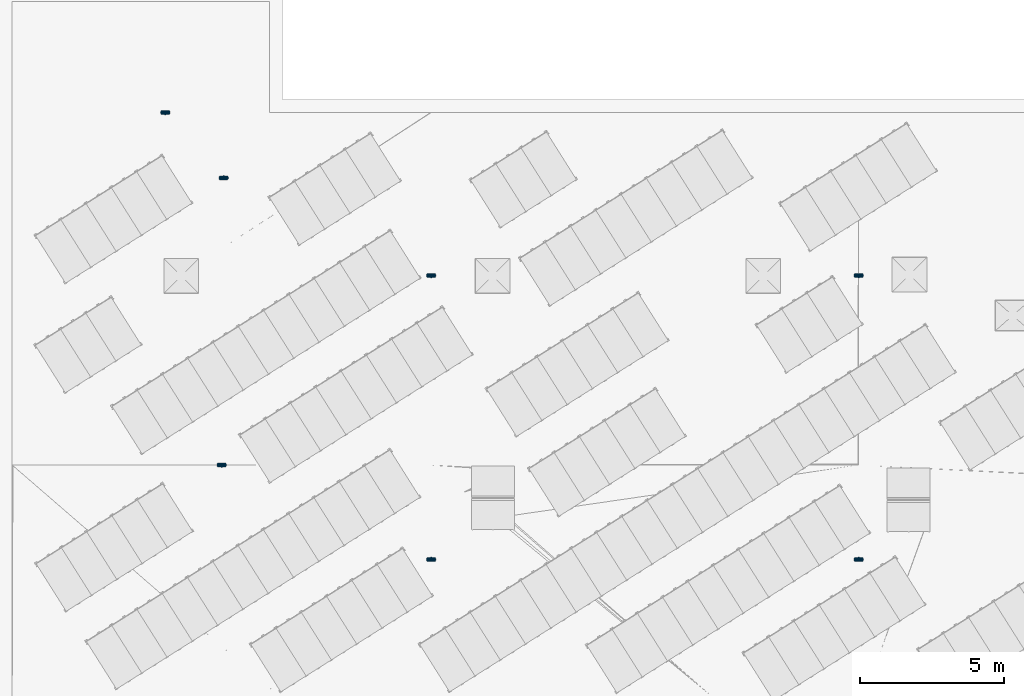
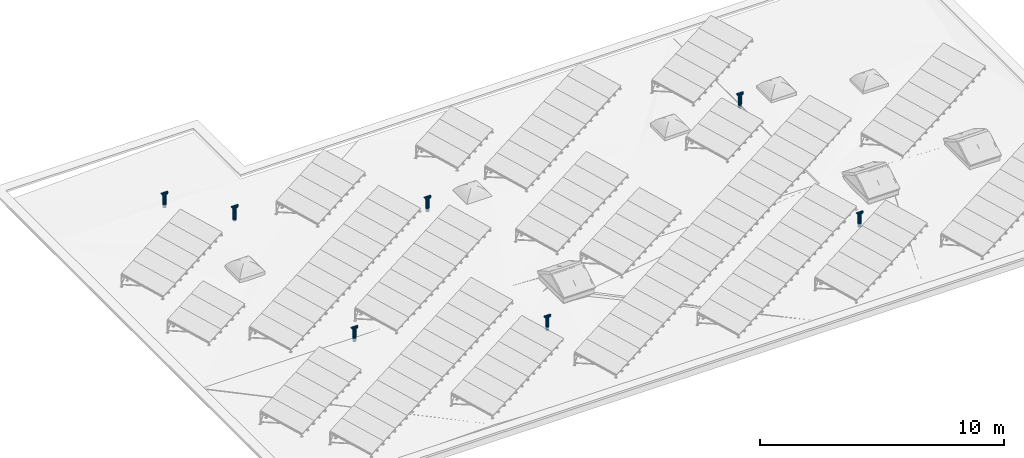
# One storey, part 4 of 9: 7 discrete accessories.
"""IFC2X3 building model written with IfcOpenShell, lengths in millimetres."""

from ifc_helpers import new_model, entity, si_unit, converted_unit, derived_unit, money_unit, direction, frame, origin_with_axes, place, context, subcontext, project, spatial, open_shell, surface_model, source, transform, mapped, material, type_object, element, save


model = new_model("IFC2X3")

# Units and contexts
model_context = context("Model", 3, precision=0.01, world=origin_with_axes(), true_north=direction((0.0, 1.0)))
body_context = subcontext(model_context, "Body", "Model", "MODEL_VIEW")
ifc_project = project(units=[si_unit("LENGTHUNIT", "METRE", prefix="MILLI"), si_unit("AREAUNIT", "SQUARE_METRE"), si_unit("VOLUMEUNIT", "CUBIC_METRE"), converted_unit("PLANEANGLEUNIT", "DEGREE", entity("IfcPlaneAngleMeasure", 0.0174532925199), si_unit("PLANEANGLEUNIT", "RADIAN"), dimensions=[0, 0, 0, 0, 0, 0, 0]), si_unit("SOLIDANGLEUNIT", "STERADIAN"), money_unit("EUR"), converted_unit("TIMEUNIT", "Year", entity("IfcTimeMeasure", 31556926.0), si_unit("TIMEUNIT", "SECOND"), dimensions=[0, 0, 1, 0, 0, 0, 0]), si_unit("MASSUNIT", "GRAM", prefix="KILO"), si_unit("THERMODYNAMICTEMPERATUREUNIT", "DEGREE_CELSIUS"), si_unit("LUMINOUSINTENSITYUNIT", "LUMEN"), si_unit("ENERGYUNIT", "JOULE", prefix="MEGA"), derived_unit("THERMALCONDUCTANCEUNIT", [(si_unit("POWERUNIT", "WATT"), 1), (si_unit("LENGTHUNIT", "METRE"), -1), (si_unit("THERMODYNAMICTEMPERATUREUNIT", "KELVIN"), -1)]), derived_unit("SPECIFICHEATCAPACITYUNIT", [(si_unit("ENERGYUNIT", "JOULE"), 1), (si_unit("MASSUNIT", "GRAM", prefix="KILO"), -1), (si_unit("THERMODYNAMICTEMPERATUREUNIT", "KELVIN"), -1)]), derived_unit("MASSDENSITYUNIT", [(si_unit("MASSUNIT", "GRAM", prefix="KILO"), 1), (si_unit("VOLUMEUNIT", "CUBIC_METRE"), -1)])], contexts=[model_context])

# Site, building, storey
site_placement = place(None, origin_with_axes())
site = spatial("IfcSite", under=ifc_project, at=site_placement, Name="KIRDE 14, ELVA", CompositionType="ELEMENT")
building_placement = place(site_placement, origin_with_axes())
building = spatial("IfcBuilding", under=site, at=building_placement, Name="PPA ja Päästeameti ühishoone", CompositionType="ELEMENT")
storey_placement = place(building_placement, frame((0.0, 0.0, 7700.0), z_axis=(0.0, 0.0, 1.0), x_axis=(1.0, 0.0, 0.0)))
storey = spatial("IfcBuildingStorey", under=building, at=storey_placement, Name="Katusekorrus", CompositionType="ELEMENT", Elevation=7700.0)

# Discrete accessories
ifc_material = material(Name="IFC Building Material")
discrete_accessory_type = type_object("IfcDiscreteAccessoryType", Name="Model Element 36")
shared_shape = source(origin_with_axes(), body_context, "Body", "SurfaceModel", [
    surface_model("IfcShellBasedSurfaceModel", [(38.72983, -70.0, 670.0), (13.41264, -78.86762, 670.0), (0.0, -70.0, 670.0), (-13.41264, -78.86762, 670.0), (-38.72983, -70.0, 670.0)], [open_shell([[[0, 1, 2]], [[1, 3, 2]], [[3, 4, 2]]])]),
    surface_model("IfcShellBasedSurfaceModel", [(-38.72983, 70.0, 670.0), (-13.41264, 78.86762, 670.0), (0.0, 70.0, 670.0), (13.41264, 78.86762, 670.0), (38.72983, 70.0, 670.0)], [open_shell([[[0, 1, 2]], [[1, 3, 2]], [[3, 4, 2]]])]),
    surface_model("IfcShellBasedSurfaceModel", [(-80.0, 0.0, 740.0), (-80.0, -26.78784, 734.67157), (80.0, -26.78784, 734.67157), (80.0, 0.0, 740.0), (-80.0, -49.49747, 719.49747), (80.0, -49.49747, 719.49747), (162.14548, -26.78784, 734.67157), (165.0, 0.0, 740.0), (-80.0, 26.78784, 734.67157), (80.0, 26.78784, 734.67157), (-80.0, -64.67157, 696.78784), (80.0, -64.67157, 696.78784), (154.0165, -49.49747, 719.49747), (162.14548, 26.78784, 734.67157), (-80.0, 49.49747, 719.49747), (80.0, 49.49747, 719.49747), (-154.0165, -49.49747, 719.49747), (-141.85063, -64.67157, 696.78784), (-80.0, -70.0, 670.0), (80.0, -70.0, 670.0), (141.85063, -64.67157, 696.78784), (154.0165, 49.49747, 719.49747), (-80.0, 64.67157, 696.78784), (80.0, 64.67157, 696.78784), (-80.0, -26.78784, 734.67157), (-162.14548, -26.78784, 734.67157), (-127.5, -70.0, 670.0), (-80.0, -64.67157, 643.21216), (80.0, -64.67157, 643.21216), (127.5, -70.0, 670.0), (141.85063, 64.67157, 696.78784), (-141.85063, 64.67157, 696.78784), (-154.0165, 49.49747, 719.49747), (-80.0, 70.0, 670.0), (80.0, 70.0, 670.0), (-165.0, 0.0, 740.0), (-113.14937, -64.67157, 643.21216), (-80.0, -49.49747, 620.50253), (80.0, -49.49747, 620.50253), (113.14937, -64.67157, 643.21216), (127.5, 70.0, 670.0), (-127.5, 70.0, 670.0), (-80.0, 26.78784, 734.67157), (-162.14548, 26.78784, 734.67157), (-80.0, 64.67157, 643.21216), (80.0, 64.67157, 643.21216), (-100.9835, -49.49747, 620.50253), (-80.0, -26.78784, 605.32843), (80.0, -26.78784, 605.32843), (100.9835, -49.49747, 620.50253), (113.14937, 64.67157, 643.21216), (-113.14937, 64.67157, 643.21216), (-80.0, 49.49747, 620.50253), (80.0, 49.49747, 620.50253), (-80.0, -26.78784, 605.32843), (-92.85452, -26.78784, 605.32843), (-80.0, 0.0, 600.0), (80.0, 0.0, 600.0), (92.85452, -26.78784, 605.32843), (100.9835, 49.49747, 620.50253), (-100.9835, 49.49747, 620.50253), (-80.0, 26.78784, 605.32843), (80.0, 26.78784, 605.32843), (-90.0, 0.0, 600.0), (90.0, 0.0, 600.0), (92.85452, 26.78784, 605.32843), (-80.0, 26.78784, 605.32843), (-92.85452, 26.78784, 605.32843)], [open_shell([[[0, 1, 2, 3]], [[1, 4, 5, 2]], [[3, 2, 6, 7]], [[8, 0, 3, 9]], [[4, 10, 11, 5]], [[2, 5, 12, 6]], [[9, 3, 7, 13]], [[14, 8, 9, 15]], [[10, 4, 16, 17]], [[10, 18, 19, 11]], [[5, 11, 20, 12]], [[15, 9, 13, 21]], [[22, 14, 15, 23]], [[4, 24, 25, 16]], [[18, 10, 17, 26]], [[18, 27, 28, 19]], [[11, 19, 29, 20]], [[23, 15, 21, 30]], [[14, 22, 31, 32]], [[33, 22, 23, 34]], [[24, 0, 35, 25]], [[27, 18, 26, 36]], [[27, 37, 38, 28]], [[19, 28, 39, 29]], [[34, 23, 30, 40]], [[22, 33, 41, 31]], [[42, 14, 32, 43]], [[44, 33, 34, 45]], [[0, 42, 43, 35]], [[37, 27, 36, 46]], [[37, 47, 48, 38]], [[28, 38, 49, 39]], [[45, 34, 40, 50]], [[33, 44, 51, 41]], [[52, 44, 45, 53]], [[54, 37, 46, 55]], [[47, 56, 57, 48]], [[38, 48, 58, 49]], [[53, 45, 50, 59]], [[44, 52, 60, 51]], [[61, 52, 53, 62]], [[56, 54, 55, 63]], [[56, 61, 62, 57]], [[48, 57, 64, 58]], [[62, 53, 59, 65]], [[52, 66, 67, 60]], [[66, 56, 63, 67]], [[57, 62, 65, 64]]])]),
    surface_model("IfcShellBasedSurfaceModel", [(80.0, 0.0, 0.0), (73.91036, 30.61467, 0.0), (73.91036, 30.61467, 590.0), (80.0, 0.0, 590.0), (56.56854, 56.56854, 0.0), (56.56854, 56.56854, 590.0), (73.91036, 30.61467, 607.04969), (80.0, 0.0, 600.0), (73.91036, -30.61467, 0.0), (73.91036, -30.61467, 590.0), (30.61467, 73.91036, 0.0), (30.61467, 73.91036, 590.0), (73.91036, -30.61467, 607.04969), (56.56854, 56.56854, 628.76894), (56.56854, 56.56854, 590.0), (56.56854, -56.56854, 0.0), (56.56854, -56.56854, 590.0), (0.0, 80.0, 0.0), (0.0, 80.0, 590.0), (56.56854, -56.56854, 628.76894), (56.56854, -56.56854, 590.0), (30.61467, 73.91036, 670.0), (30.61467, 73.91036, 590.0), (30.61467, -73.91036, 0.0), (30.61467, -73.91036, 590.0), (-30.61467, 73.91036, 0.0), (-30.61467, 73.91036, 590.0), (30.61467, -73.91036, 670.0), (30.61467, -73.91036, 590.0), (0.0, 80.0, 670.0), (0.0, -80.0, 0.0), (0.0, -80.0, 590.0), (-56.56854, 56.56854, 0.0), (-56.56854, 56.56854, 590.0), (0.0, -80.0, 670.0), (-30.61467, 73.91036, 670.0), (-30.61467, 73.91036, 590.0), (-30.61467, -73.91036, 0.0), (-30.61467, -73.91036, 590.0), (-73.91036, 30.61467, 0.0), (-73.91036, 30.61467, 590.0), (-30.61467, -73.91036, 670.0), (-30.61467, -73.91036, 590.0), (-56.56854, 56.56854, 628.76894), (-56.56854, 56.56854, 590.0), (-56.56854, -56.56854, 0.0), (-56.56854, -56.56854, 590.0), (-80.0, 0.0, 0.0), (-80.0, 0.0, 590.0), (-56.56854, -56.56854, 628.76894), (-56.56854, -56.56854, 590.0), (-73.91036, 30.61467, 607.04969), (-73.91036, -30.61467, 0.0), (-73.91036, -30.61467, 590.0), (-80.0, 0.0, 600.0), (-73.91036, -30.61467, 607.04969)], [open_shell([[[0, 1, 2, 3]], [[1, 4, 5, 2]], [[6, 7, 3, 2]], [[8, 0, 3, 9]], [[4, 10, 11, 5]], [[7, 12, 9, 3]], [[13, 6, 2, 14]], [[15, 8, 9, 16]], [[10, 17, 18, 11]], [[12, 19, 20, 9]], [[21, 13, 14, 22]], [[23, 15, 16, 24]], [[17, 25, 26, 18]], [[19, 27, 28, 20]], [[29, 21, 22, 18]], [[30, 23, 24, 31]], [[25, 32, 33, 26]], [[27, 34, 31, 28]], [[35, 29, 18, 36]], [[37, 30, 31, 38]], [[32, 39, 40, 33]], [[34, 41, 42, 31]], [[43, 35, 36, 44]], [[45, 37, 38, 46]], [[39, 47, 48, 40]], [[41, 49, 50, 42]], [[51, 43, 44, 40]], [[52, 45, 46, 53]], [[47, 52, 53, 48]], [[54, 51, 40, 48]], [[49, 55, 53, 50]], [[55, 54, 48, 53]]])]),
])
for number, where, z_axis, x_axis, name in (
    (1, (29294.1725865, 5286.78648746, -160.0), (0.0, 0.0, 1.0), (-1.0, 0.0, 0.0), "Vent pipe antifreeze-110"),
    (2, (14500.1725894, 15108.9992193, -160.0), (0.0, 0.0, 1.0), (-1.0, 0.0, 0.0), "Vent pipe antifreeze-110"),
    (3, (29294.1725865, 15108.9992193, -160.0), (0.0, 0.0, 1.0), (-1.0, 0.0, 0.0), "Vent pipe antifreeze-110"),
    (4, (7315.85942376, 18488.8256065, -160.0), (0.0, 0.0, 1.0), (-1.0, 0.0, 0.0), "Vent pipe antifreeze-110"),
    (5, (5299.82123823, 20749.5916299, -160.0), (0.0, 0.0, 1.0), (-1.0, 0.0, 0.0), "Vent pipe antifreeze-110"),
    (6, (14500.1725894, 5286.78648746, -160.0), (0.0, 0.0, 1.0), (-1.0, 0.0, 0.0), "Vent pipe antifreeze-110"),
    (7, (7250.08679624, 8550.89154297, -160.0), (0.0, 0.0, 1.0), (-1.0, 0.0, 0.0), "Vent pipe antifreeze-110"),
):
    element("IfcDiscreteAccessory", number, at=place(storey_placement, frame(where, z_axis=z_axis, x_axis=x_axis)), inside=storey, type_object=discrete_accessory_type, material=ifc_material, Name=name, context=body_context, shape_type="MappedRepresentation", body=[
        mapped(shared_shape, transform((0.0, 0.0, 0.0))),
    ])

save(model, "model.ifc")
